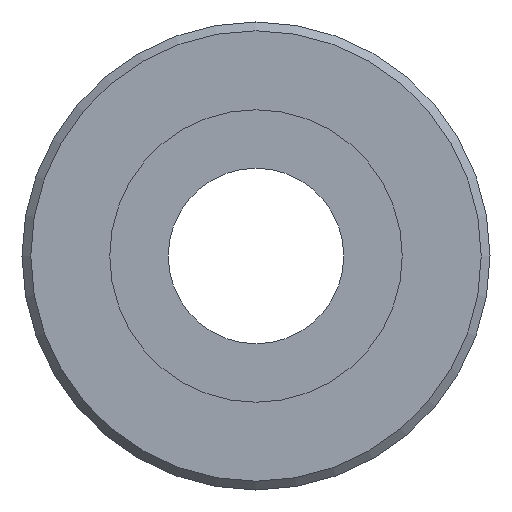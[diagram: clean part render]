
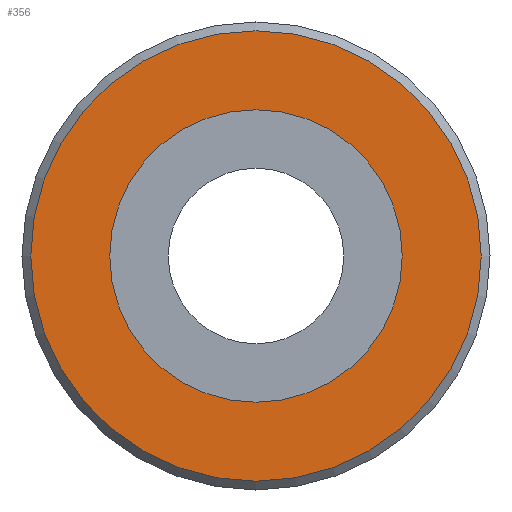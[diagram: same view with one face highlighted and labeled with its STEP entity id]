
A CAD part, front view. The second image highlights one B-rep face of the part: STEP entity #356.
In plain terms, the highlighted planar face has unit normal (0, -1, 0).
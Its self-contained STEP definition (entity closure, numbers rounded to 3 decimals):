
#22=FACE_BOUND('',#69,.T.);
#30=PLANE('',#412);
#41=FACE_OUTER_BOUND('',#68,.T.);
#68=EDGE_LOOP('',(#257));
#69=EDGE_LOOP('',(#258));
#129=CIRCLE('',#402,5.);
#135=CIRCLE('',#411,7.7);
#162=VERTEX_POINT('',#598);
#168=VERTEX_POINT('',#615);
#193=EDGE_CURVE('',#162,#162,#129,.T.);
#202=EDGE_CURVE('',#168,#168,#135,.T.);
#257=ORIENTED_EDGE('',*,*,#202,.F.);
#258=ORIENTED_EDGE('',*,*,#193,.T.);
#356=ADVANCED_FACE('',(#41,#22),#30,.T.);
#402=AXIS2_PLACEMENT_3D('',#599,#464,#465);
#411=AXIS2_PLACEMENT_3D('',#617,#485,#486);
#412=AXIS2_PLACEMENT_3D('',#618,#487,#488);
#464=DIRECTION('center_axis',(0.,1.,0.));
#465=DIRECTION('ref_axis',(1.,0.,0.));
#485=DIRECTION('center_axis',(0.,1.,0.));
#486=DIRECTION('ref_axis',(0.,0.,-1.));
#487=DIRECTION('center_axis',(0.,-1.,0.));
#488=DIRECTION('ref_axis',(0.,0.,-1.));
#598=CARTESIAN_POINT('',(-5.,-20.2,0.));
#599=CARTESIAN_POINT('Origin',(0.,-20.2,0.));
#615=CARTESIAN_POINT('',(0.,-20.2,7.7));
#617=CARTESIAN_POINT('Origin',(0.,-20.2,0.));
#618=CARTESIAN_POINT('Origin',(0.,-20.2,8.));
